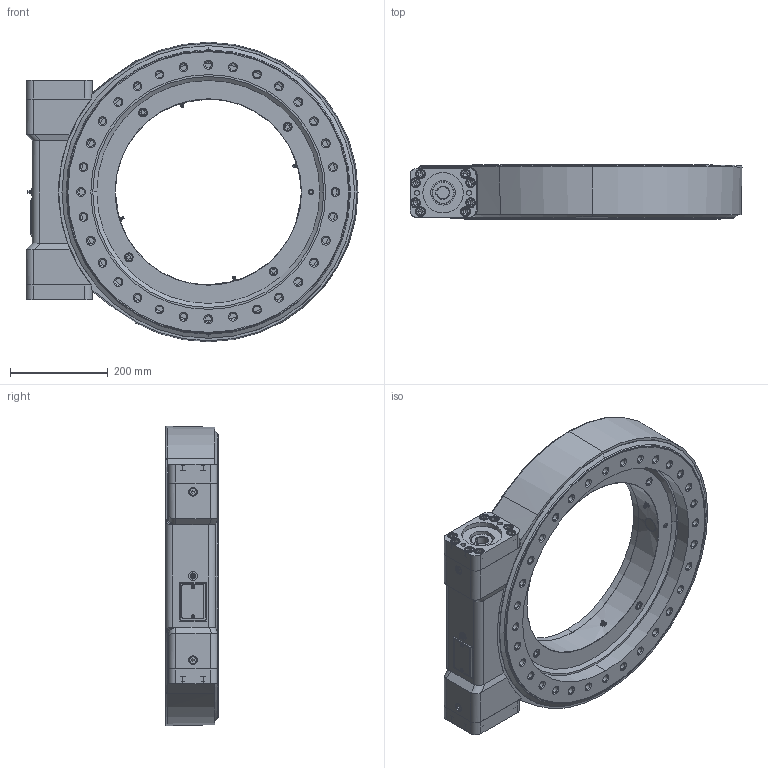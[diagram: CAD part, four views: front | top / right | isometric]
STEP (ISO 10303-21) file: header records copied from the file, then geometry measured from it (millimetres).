
FILE_DESCRIPTION (( 'STEP AP214' ), '1' );
FILE_NAME ('WD-L 0478-3-04904_C - ohne Motor.STEP', '2012-01-18T09:20:22', ( '' ), ( '' ), 'SwSTEP 2.0', 'SolidWorks 2011', '' );
FILE_SCHEMA (( 'AUTOMOTIVE_DESIGN' ));
Length unit declared in the file: millimetre
Products named in the file (1): WD-L 0478-3-04904_C - ohne Motor
Bounding box: 678.5 x 110 x 612 mm (x, y, z)
Surface area: 1078712.2 mm2 (no closed solid volume)
Topology: 0 solids, 53 shells, 792 faces, 2374 edges, 1575 vertices
Faces by surface type: cylinder 285, plane 265, cone 128, torus 86, bspline 28
Entity records: 38969 total; most frequent: CARTESIAN_POINT 8811, DIRECTION 4706, ORIENTED_EDGE 3921, EDGE_CURVE 2342, AXIS2_PLACEMENT_3D 1823, VERTEX_POINT 1575, VECTOR 1060, LINE 1060
